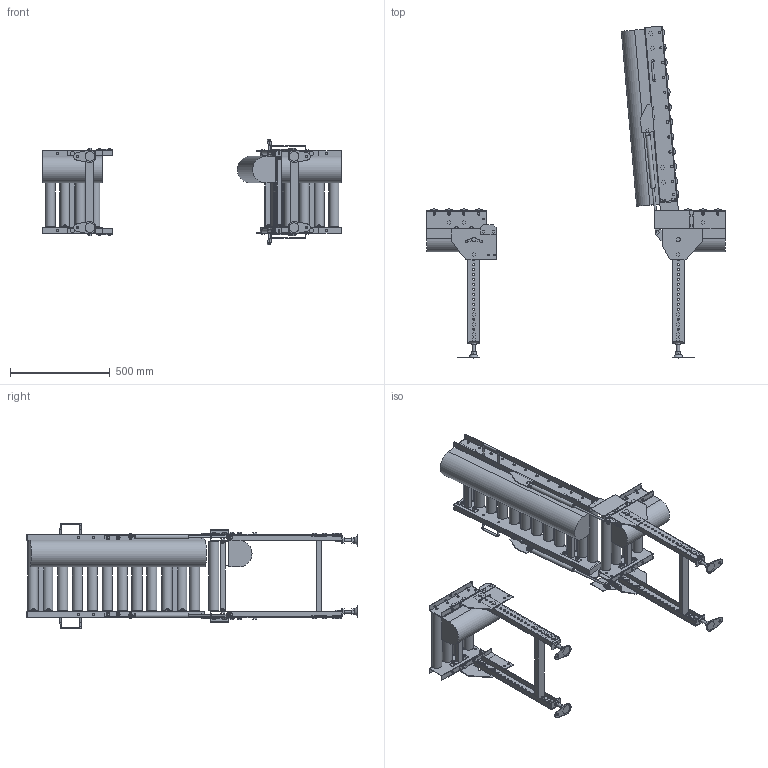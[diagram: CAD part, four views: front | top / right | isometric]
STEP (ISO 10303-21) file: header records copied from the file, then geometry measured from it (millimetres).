
FILE_DESCRIPTION (( 'STEP AP214' ), '1' );
FILE_NAME ('MCD50HU-L-355-75-900.STEP', '2022-11-17T06:15:40', ( '' ), ( '' ), 'SwSTEP 2.0', 'SolidWorks 2017', '' );
FILE_SCHEMA (( 'AUTOMOTIVE_DESIGN' ));
Length unit declared in the file: millimetre
Products named in the file (1): MCD50HU-L-355-75-900
Bounding box: 1500 x 1665.85 x 531.39 mm (x, y, z)
Volume: 39922431.1 mm3; surface area: 4198408.6 mm2
Topology: 5 solids, 31 shells, 2623 faces, 6552 edges, 4167 vertices
Faces by surface type: plane 2144, cylinder 461, cone 10, torus 8
Full cylindrical faces by diameter (mm): 8 x8, 8.5 x8, 9 x20, 10 x58, 10.5 x96, 11 x8, 12 x42, 13 x12, 14 x4, 15 x6, 15.4 x2, 15.7 x2, 16 x10, 17 x4, 18 x6, 18.4 x28, 18.5 x8, 21 x12, 22 x2, 50.8 x20
Entity records: 75972 total; most frequent: CARTESIAN_POINT 12985, DIRECTION 12712, ORIENTED_EDGE 11988, EDGE_CURVE 5994, VECTOR 4516, LINE 4516, AXIS2_PLACEMENT_3D 4098, VERTEX_POINT 3983
